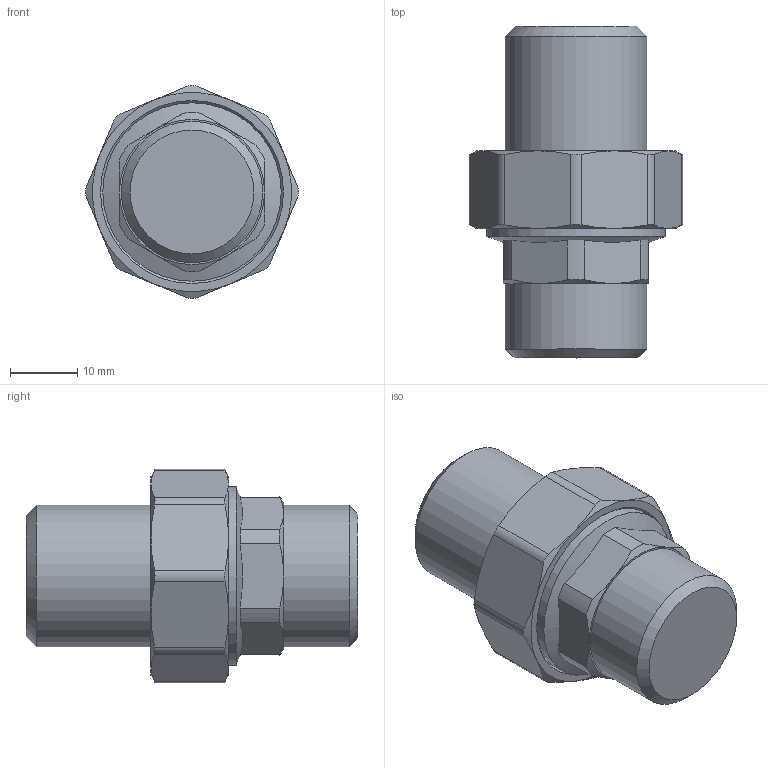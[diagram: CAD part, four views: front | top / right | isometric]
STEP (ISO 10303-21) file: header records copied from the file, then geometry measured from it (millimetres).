
FILE_DESCRIPTION(('STEP AP203'), '1');
FILE_NAME('覆.302612.025.000 捘 - VTr.728.N.00041', '2024-07-19T07:06:16', ('Boss'), (''), 'C3D Converter', 'C3D Toolkit', '');
FILE_SCHEMA(('CONFIG_CONTROL_DESIGN'));
Length unit declared in the file: millimetre
Products named in the file (1): ВР.302612.025.000 СБ
Bounding box: 31.6 x 49.16 x 31.6 mm (x, y, z)
Volume: 21680 mm3; surface area: 5195.3 mm2
Topology: 1 solids, 1 shells, 65 faces, 150 edges, 91 vertices
Faces by surface type: cone 27, plane 20, cylinder 18
Full cylindrical faces by diameter (mm): 20.955 x2, 22.2 x1, 26.441 x1
Entity records: 2999 total; most frequent: CARTESIAN_POINT 1645, ORIENTED_EDGE 280, DIRECTION 249, EDGE_CURVE 140, AXIS2_PLACEMENT_3D 110, VERTEX_POINT 91, EDGE_LOOP 76, B_SPLINE_CURVE_WITH_KNOTS 66
